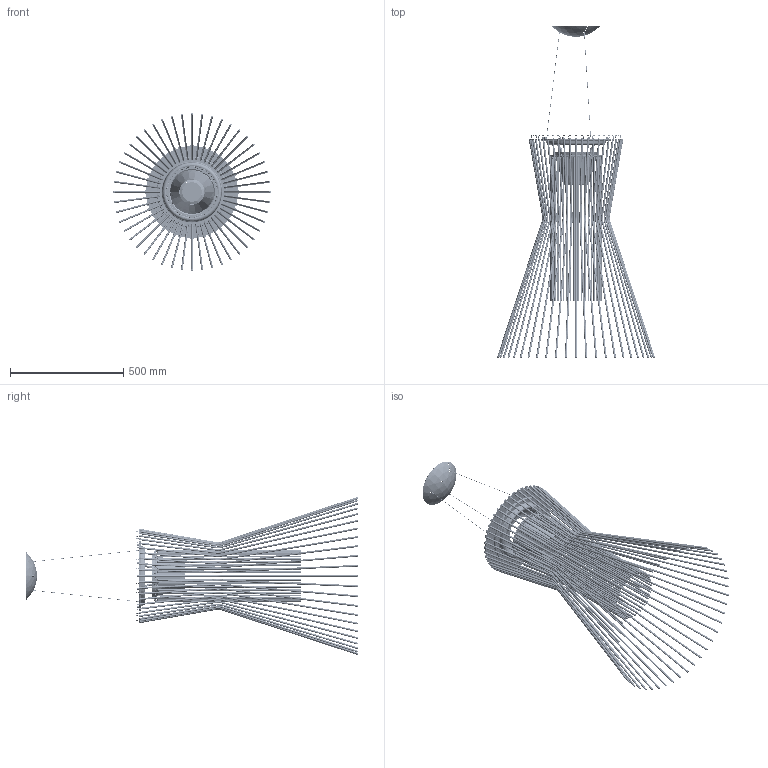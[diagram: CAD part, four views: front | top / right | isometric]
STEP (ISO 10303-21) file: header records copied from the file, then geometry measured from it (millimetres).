
FILE_DESCRIPTION (( 'STEP AP214' ), '1' );
FILE_NAME ('169_VIVACE_S_LD_3D.STEP', '2021-05-07T06:46:39', ( '' ), ( '' ), 'SwSTEP 2.0', 'SolidWorks 2021', '' );
FILE_SCHEMA (( 'AUTOMOTIVE_DESIGN' ));
Length unit declared in the file: millimetre
Products named in the file (1): 169_VIVACE_S_LD_3D
Bounding box: 696.65 x 1462.85 x 696.65 mm (x, y, z)
Volume: 4367021.7 mm3; surface area: 2630464.6 mm2
Topology: 206 solids, 206 shells, 9171 faces, 24059 edges, 15261 vertices
Faces by surface type: cylinder 3488, plane 2472, torus 2378, cone 829, sphere 4
Entity records: 401037 total; most frequent: CARTESIAN_POINT 60843, DIRECTION 55880, ORIENTED_EDGE 48118, EDGE_CURVE 24059, AXIS2_PLACEMENT_3D 23889, VERTEX_POINT 15261, CIRCLE 14717, EDGE_LOOP 9450
